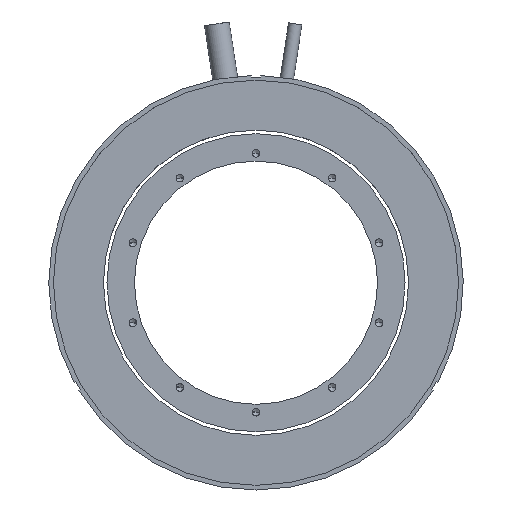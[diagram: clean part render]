
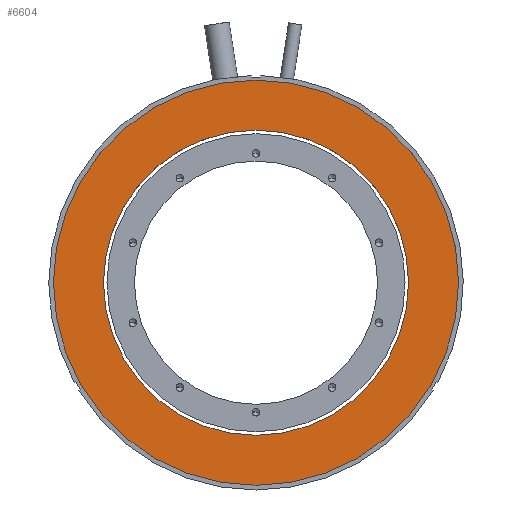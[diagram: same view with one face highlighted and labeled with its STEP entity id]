
A CAD part, front view. The second image highlights one B-rep face of the part: STEP entity #6604.
In plain terms, the highlighted planar face has unit normal (0, -1, 0) as drawn and (0, 0, -1) by its records, which use the part's own axes.
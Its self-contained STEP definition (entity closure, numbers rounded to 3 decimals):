
#9 = VERTEX_POINT ( 'NONE', #4481 ) ;
#267 = AXIS2_PLACEMENT_3D ( 'NONE', #4920, #5834, #12550 ) ;
#732 = FACE_OUTER_BOUND ( 'NONE', #1475, .T. ) ;
#942 = CIRCLE ( 'NONE', #8148, 65. ) ;
#1096 = DIRECTION ( 'NONE',  ( -1., 0., 0. ) ) ;
#1102 = ORIENTED_EDGE ( 'NONE', *, *, #9910, .F. ) ;
#1475 = EDGE_LOOP ( 'NONE', ( #5286, #11801 ) ) ;
#1569 = PLANE ( 'NONE',  #8184 ) ;
#1828 = DIRECTION ( 'NONE',  ( 0., 0., -1. ) ) ;
#2244 = VERTEX_POINT ( 'NONE', #3087 ) ;
#2805 = CIRCLE ( 'NONE', #12079, 48.95 ) ;
#2924 = AXIS2_PLACEMENT_3D ( 'NONE', #4886, #10974, #1096 ) ;
#3087 = CARTESIAN_POINT ( 'NONE',  ( -19.053, 126.985, 123.713 ) ) ;
#3635 = CARTESIAN_POINT ( 'NONE',  ( 29.897, 126.985, 123.713 ) ) ;
#3742 = EDGE_CURVE ( 'NONE', #8946, #6275, #942, .T. ) ;
#3799 = EDGE_CURVE ( 'NONE', #2244, #9, #2805, .T. ) ;
#3986 = EDGE_LOOP ( 'NONE', ( #1102, #5543 ) ) ;
#4481 = CARTESIAN_POINT ( 'NONE',  ( 78.847, 126.985, 123.713 ) ) ;
#4598 = FACE_BOUND ( 'NONE', #3986, .T. ) ;
#4886 = CARTESIAN_POINT ( 'NONE',  ( 29.897, 126.985, 123.713 ) ) ;
#4920 = CARTESIAN_POINT ( 'NONE',  ( 29.897, 126.985, 123.713 ) ) ;
#5286 = ORIENTED_EDGE ( 'NONE', *, *, #3742, .T. ) ;
#5507 = DIRECTION ( 'NONE',  ( -1., 0., 0. ) ) ;
#5543 = ORIENTED_EDGE ( 'NONE', *, *, #3799, .F. ) ;
#5769 = DIRECTION ( 'NONE',  ( -1., 0., 0. ) ) ;
#5834 = DIRECTION ( 'NONE',  ( 0., 0., -1. ) ) ;
#6241 = CIRCLE ( 'NONE', #267, 65. ) ;
#6275 = VERTEX_POINT ( 'NONE', #7768 ) ;
#6604 = ADVANCED_FACE ( 'NONE', ( #732, #4598 ), #1569, .T. ) ;
#6616 = DIRECTION ( 'NONE',  ( 0., 0., -1. ) ) ;
#6681 = CARTESIAN_POINT ( 'NONE',  ( 29.897, 126.985, 123.713 ) ) ;
#7509 = DIRECTION ( 'NONE',  ( 0., 0., -1. ) ) ;
#7768 = CARTESIAN_POINT ( 'NONE',  ( -35.103, 126.985, 123.713 ) ) ;
#8070 = CIRCLE ( 'NONE', #2924, 48.95 ) ;
#8148 = AXIS2_PLACEMENT_3D ( 'NONE', #8543, #1828, #5769 ) ;
#8184 = AXIS2_PLACEMENT_3D ( 'NONE', #3635, #7509, #5507 ) ;
#8543 = CARTESIAN_POINT ( 'NONE',  ( 29.897, 126.985, 123.713 ) ) ;
#8946 = VERTEX_POINT ( 'NONE', #10625 ) ;
#9029 = EDGE_CURVE ( 'NONE', #6275, #8946, #6241, .T. ) ;
#9910 = EDGE_CURVE ( 'NONE', #9, #2244, #8070, .T. ) ;
#10563 = DIRECTION ( 'NONE',  ( -1., 0., 0. ) ) ;
#10625 = CARTESIAN_POINT ( 'NONE',  ( 94.897, 126.985, 123.713 ) ) ;
#10974 = DIRECTION ( 'NONE',  ( 0., 0., -1. ) ) ;
#11801 = ORIENTED_EDGE ( 'NONE', *, *, #9029, .T. ) ;
#12079 = AXIS2_PLACEMENT_3D ( 'NONE', #6681, #6616, #10563 ) ;
#12550 = DIRECTION ( 'NONE',  ( -1., 0., 0. ) ) ;
